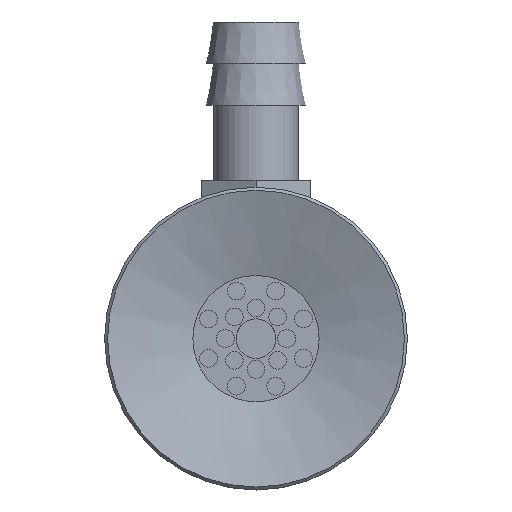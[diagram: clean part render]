
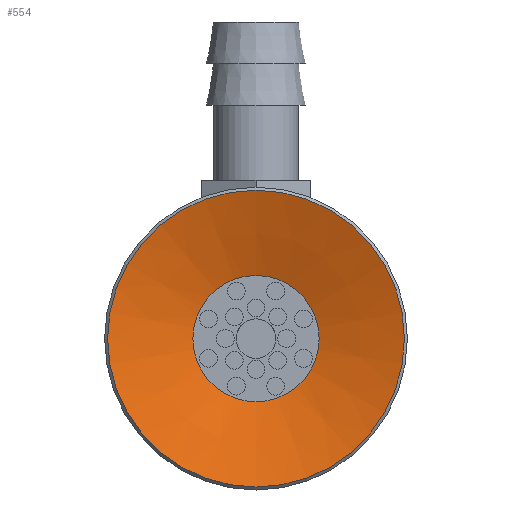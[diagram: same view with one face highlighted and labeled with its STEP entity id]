
A CAD part, front view. The second image highlights one B-rep face of the part: STEP entity #554.
In plain terms, the highlighted conical face has half-angle 72 degrees and reference radius 7.5 mm.
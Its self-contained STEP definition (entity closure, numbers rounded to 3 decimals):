
#554=ADVANCED_FACE('',(#855,#856),#857,.F.);
#855=FACE_BOUND('',#1265,.T.);
#856=FACE_OUTER_BOUND('',#1266,.T.);
#857=CONICAL_SURFACE('',#1267,7.5,1.257);
#1265=EDGE_LOOP('',(#2064));
#1266=EDGE_LOOP('',(#2065));
#1267=AXIS2_PLACEMENT_3D('',#2066,#2067,#2068);
#2064=ORIENTED_EDGE('',*,*,#2545,.T.);
#2065=ORIENTED_EDGE('',*,*,#2546,.F.);
#2066=CARTESIAN_POINT('',(0.0,0.,0.));
#2067=DIRECTION('',(0.0,0.,-1.0));
#2068=DIRECTION('',(0.0,1.0,0.));
#2545=EDGE_CURVE('',#2907,#2907,#2908,.T.);
#2546=EDGE_CURVE('',#2909,#2909,#2910,.T.);
#2907=VERTEX_POINT('',#3713);
#2908=CIRCLE('',#3714,3.191);
#2909=VERTEX_POINT('',#3715);
#2910=CIRCLE('',#3716,7.5);
#3713=CARTESIAN_POINT('',(0.0,-3.191,1.4));
#3714=AXIS2_PLACEMENT_3D('',#4132,#4133,#4134);
#3715=CARTESIAN_POINT('',(0.0,-7.5,0.));
#3716=AXIS2_PLACEMENT_3D('',#4135,#4136,#4137);
#4132=CARTESIAN_POINT('',(0.0,0.,1.4));
#4133=DIRECTION('',(0.0,0.,1.0));
#4134=DIRECTION('',(0.0,-1.0,0.));
#4135=CARTESIAN_POINT('',(0.0,0.,0.));
#4136=DIRECTION('',(0.0,0.,1.0));
#4137=DIRECTION('',(0.0,-1.0,0.));
